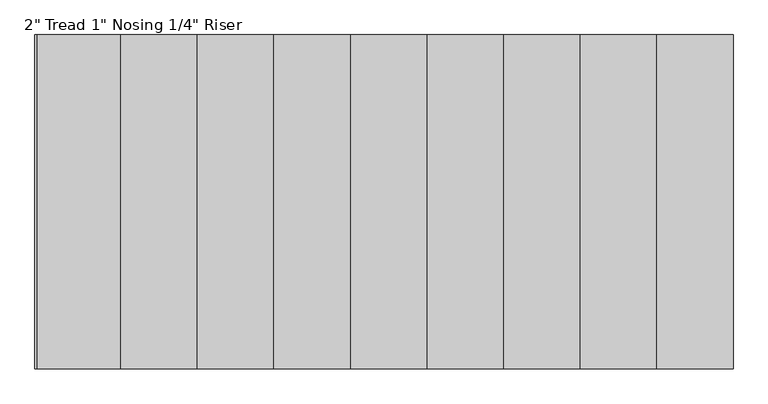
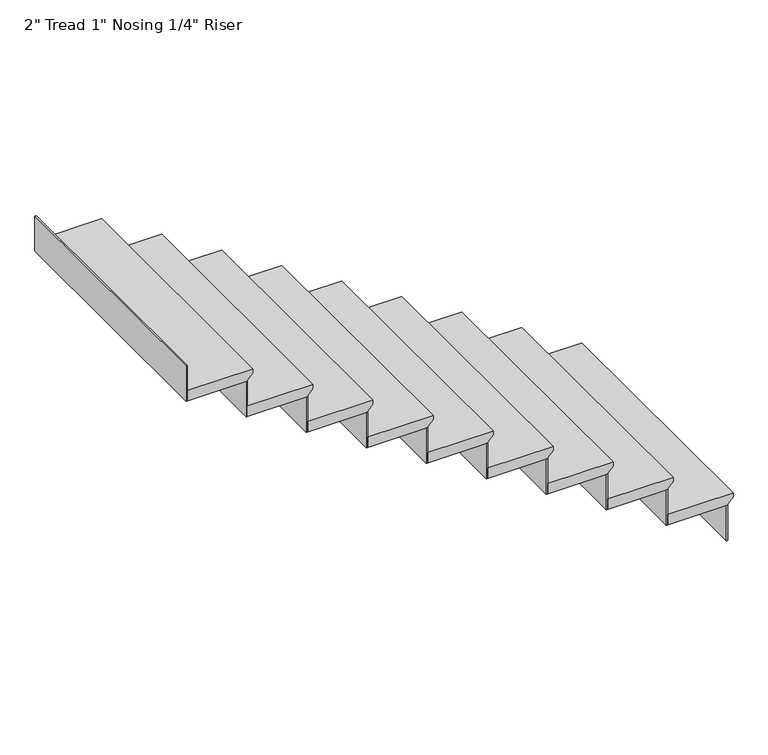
"""IFC4 building model written with IfcOpenShell, lengths in millimetres: stair flight geometry."""

from ifc_helpers import new_model, si_unit, frame, origin, place, context, project, spatial, polyline, outline, extrude, source, transform, mapped, element, save


def stair_flight_e05df6d8(model_context):
    return source(origin(), model_context, "Body", "SweptSolid", [
        extrude(outline(polyline([(2090.0571429, 20538.0049721), (2090.0571429, 20233.2049721), (2039.2571429, 20233.2049721), (2039.2571429, 20512.6049721), (2045.6071429, 20512.6049721), (2071.0071429, 20538.0049721), (2090.0571429, 20538.0049721)])), frame((0.0, -700.8226681, 0.0), z_axis=(0.0, 1.0, 0.0), x_axis=(0.0, 0.0, 1.0)), (0.0, 0.0, 1.0), 1219.2),
        extrude(outline(polyline([(20506.2549721, 518.3773319), (20512.6049721, 518.3773319), (20512.6049721, -700.8226681), (20506.2549721, -700.8226681), (20506.2549721, 518.3773319)])), frame((0.0, 0.0, 1865.0857143), z_axis=(0.0, 0.0, 1.0), x_axis=(1.0, 0.0, 0.0)), (0.0, 0.0, 1.0), 174.1714286),
        extrude(outline(polyline([(20226.8549721, 518.3773319), (20233.2049721, 518.3773319), (20233.2049721, -700.8226681), (20226.8549721, -700.8226681), (20226.8549721, 518.3773319)])), frame((0.0, 0.0, 2039.2571429), z_axis=(0.0, 0.0, 1.0), x_axis=(1.0, 0.0, 0.0)), (0.0, 0.0, 1.0), 174.1714286),
        extrude(outline(polyline([(2264.2285714, 20258.6049721), (2264.2285714, 19953.8049721), (2213.4285714, 19953.8049721), (2213.4285714, 20233.2049721), (2219.7785714, 20233.2049721), (2245.1785714, 20258.6049721), (2264.2285714, 20258.6049721)])), frame((0.0, -700.8226681, 0.0), z_axis=(0.0, 1.0, 0.0), x_axis=(0.0, 0.0, 1.0)), (0.0, 0.0, 1.0), 1219.2),
        extrude(outline(polyline([(19947.4549721, 518.3773319), (19953.8049721, 518.3773319), (19953.8049721, -700.8226681), (19947.4549721, -700.8226681), (19947.4549721, 518.3773319)])), frame((0.0, 0.0, 2213.4285714), z_axis=(0.0, 0.0, 1.0), x_axis=(1.0, 0.0, 0.0)), (0.0, 0.0, 1.0), 174.1714286),
        extrude(outline(polyline([(2438.4, 19979.2049721), (2438.4, 19674.4049721), (2387.6, 19674.4049721), (2387.6, 19953.8049721), (2393.95, 19953.8049721), (2419.35, 19979.2049721), (2438.4, 19979.2049721)])), frame((0.0, -700.8226681, 0.0), z_axis=(0.0, 1.0, 0.0), x_axis=(0.0, 0.0, 1.0)), (0.0, 0.0, 1.0), 1219.2),
        extrude(outline(polyline([(19668.0549721, 518.3773319), (19674.4049721, 518.3773319), (19674.4049721, -700.8226681), (19668.0549721, -700.8226681), (19668.0549721, 518.3773319)])), frame((0.0, 0.0, 2387.6), z_axis=(0.0, 0.0, 1.0), x_axis=(1.0, 0.0, 0.0)), (0.0, 0.0, 1.0), 174.1714286),
        extrude(outline(polyline([(2612.5714286, 19699.8049721), (2612.5714286, 19395.0049721), (2561.7714286, 19395.0049721), (2561.7714286, 19674.4049721), (2568.1214286, 19674.4049721), (2593.5214286, 19699.8049721), (2612.5714286, 19699.8049721)])), frame((0.0, -700.8226681, 0.0), z_axis=(0.0, 1.0, 0.0), x_axis=(0.0, 0.0, 1.0)), (0.0, 0.0, 1.0), 1219.2),
        extrude(outline(polyline([(19388.6549721, 518.3773319), (19395.0049721, 518.3773319), (19395.0049721, -700.8226681), (19388.6549721, -700.8226681), (19388.6549721, 518.3773319)])), frame((0.0, 0.0, 2561.7714286), z_axis=(0.0, 0.0, 1.0), x_axis=(1.0, 0.0, 0.0)), (0.0, 0.0, 1.0), 174.1714286),
        extrude(outline(polyline([(2786.7428571, 19420.4049721), (2786.7428571, 19115.6049721), (2735.9428571, 19115.6049721), (2735.9428571, 19395.0049721), (2742.2928571, 19395.0049721), (2767.6928571, 19420.4049721), (2786.7428571, 19420.4049721)])), frame((0.0, -700.8226681, 0.0), z_axis=(0.0, 1.0, 0.0), x_axis=(0.0, 0.0, 1.0)), (0.0, 0.0, 1.0), 1219.2),
        extrude(outline(polyline([(19109.2549721, 518.3773319), (19115.6049721, 518.3773319), (19115.6049721, -700.8226681), (19109.2549721, -700.8226681), (19109.2549721, 518.3773319)])), frame((0.0, 0.0, 2735.9428571), z_axis=(0.0, 0.0, 1.0), x_axis=(1.0, 0.0, 0.0)), (0.0, 0.0, 1.0), 174.1714286),
        extrude(outline(polyline([(2960.9142857, 19141.0049721), (2960.9142857, 18836.2049721), (2910.1142857, 18836.2049721), (2910.1142857, 19115.6049721), (2916.4642857, 19115.6049721), (2941.8642857, 19141.0049721), (2960.9142857, 19141.0049721)])), frame((0.0, -700.8226681, 0.0), z_axis=(0.0, 1.0, 0.0), x_axis=(0.0, 0.0, 1.0)), (0.0, 0.0, 1.0), 1219.2),
        extrude(outline(polyline([(18829.8549721, 518.3773319), (18836.2049721, 518.3773319), (18836.2049721, -700.8226681), (18829.8549721, -700.8226681), (18829.8549721, 518.3773319)])), frame((0.0, 0.0, 2910.1142857), z_axis=(0.0, 0.0, 1.0), x_axis=(1.0, 0.0, 0.0)), (0.0, 0.0, 1.0), 174.1714286),
        extrude(outline(polyline([(3135.0857143, 18861.6049721), (3135.0857143, 18556.8049721), (3084.2857143, 18556.8049721), (3084.2857143, 18836.2049721), (3090.6357143, 18836.2049721), (3116.0357143, 18861.6049721), (3135.0857143, 18861.6049721)])), frame((0.0, -700.8226681, 0.0), z_axis=(0.0, 1.0, 0.0), x_axis=(0.0, 0.0, 1.0)), (0.0, 0.0, 1.0), 1219.2),
        extrude(outline(polyline([(18550.4549721, 518.3773319), (18556.8049721, 518.3773319), (18556.8049721, -700.8226681), (18550.4549721, -700.8226681), (18550.4549721, 518.3773319)])), frame((0.0, 0.0, 3084.2857143), z_axis=(0.0, 0.0, 1.0), x_axis=(1.0, 0.0, 0.0)), (0.0, 0.0, 1.0), 174.1714286),
        extrude(outline(polyline([(3309.2571429, 18582.2049721), (3309.2571429, 18277.4049721), (3258.4571429, 18277.4049721), (3258.4571429, 18556.8049721), (3264.8071429, 18556.8049721), (3290.2071429, 18582.2049721), (3309.2571429, 18582.2049721)])), frame((0.0, -700.8226681, 0.0), z_axis=(0.0, 1.0, 0.0), x_axis=(0.0, 0.0, 1.0)), (0.0, 0.0, 1.0), 1219.2),
        extrude(outline(polyline([(18271.0549721, 518.3773319), (18277.4049721, 518.3773319), (18277.4049721, -700.8226681), (18271.0549721, -700.8226681), (18271.0549721, 518.3773319)])), frame((0.0, 0.0, 3258.4571429), z_axis=(0.0, 0.0, 1.0), x_axis=(1.0, 0.0, 0.0)), (0.0, 0.0, 1.0), 174.1714286),
        extrude(outline(polyline([(17991.6549721, 518.3773319), (17998.0049721, 518.3773319), (17998.0049721, -700.8226681), (17991.6549721, -700.8226681), (17991.6549721, 518.3773319)])), frame((0.0, 0.0, 3432.6285714), z_axis=(0.0, 0.0, 1.0), x_axis=(1.0, 0.0, 0.0)), (0.0, 0.0, 1.0), 174.1714286),
        extrude(outline(polyline([(3483.4285714, 18302.8049721), (3483.4285714, 17998.0049721), (3432.6285714, 17998.0049721), (3432.6285714, 18277.4049721), (3438.9785714, 18277.4049721), (3464.3785714, 18302.8049721), (3483.4285714, 18302.8049721)])), frame((0.0, -700.8226681, 0.0), z_axis=(0.0, 1.0, 0.0), x_axis=(0.0, 0.0, 1.0)), (0.0, 0.0, 1.0), 1219.2),
    ])


if __name__ == "__main__":
    model = new_model("IFC4")
    model_context = context("Model", 3, world=origin())
    ifc_project = project(units=[si_unit("LENGTHUNIT", "METRE", prefix="MILLI")], contexts=[model_context])
    site = spatial("IfcSite", under=ifc_project)
    building = spatial("IfcBuilding", under=site)
    placement = place(None, origin())
    stair_flight_shape = stair_flight_e05df6d8(model_context)
    element("IfcStairFlight", 1, ObjectType="2\" Tread 1\" Nosing 1/4\" Riser", at=placement, inside=building, context=model_context, shape_type="MappedRepresentation", body=[
        mapped(stair_flight_shape, transform((0.0, 0.0, 0.0), x_axis=(1.0, 0.0, 0.0), y_axis=(0.0, 1.0, 0.0), z_axis=(0.0, 0.0, 1.0))),
    ])
    save(model, "model.ifc")
